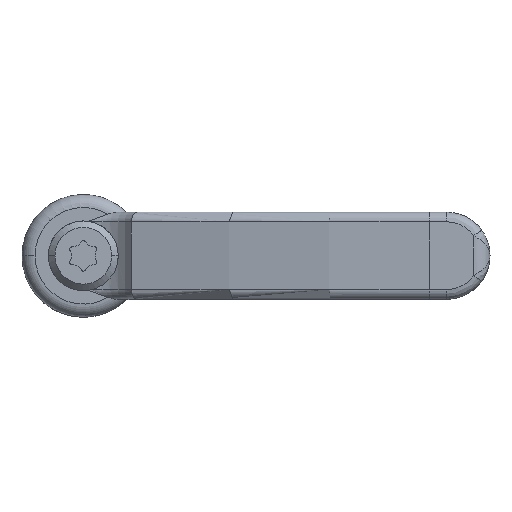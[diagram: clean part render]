
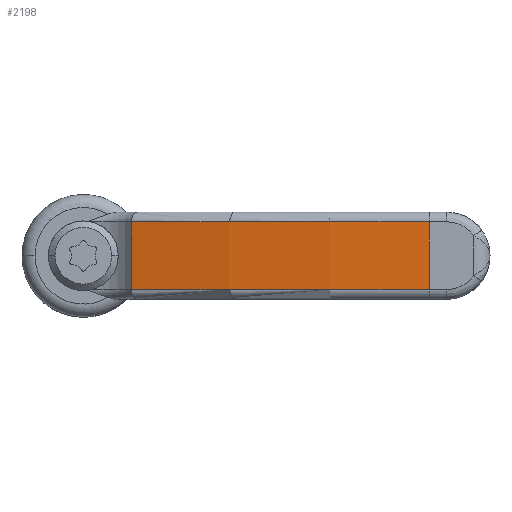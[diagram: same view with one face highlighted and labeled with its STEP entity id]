
A CAD part, top view. The second image highlights one B-rep face of the part: STEP entity #2198.
In plain terms, the highlighted cylindrical face has radius 166.65 mm (diameter 333.3 mm), a partial arc.
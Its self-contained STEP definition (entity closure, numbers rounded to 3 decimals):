
#104 = AXIS2_PLACEMENT_3D ( 'NONE', #2985, #1745, #682 ) ;
#131 = DIRECTION ( 'NONE',  ( 0., -1., 0. ) ) ;
#202 = AXIS2_PLACEMENT_3D ( 'NONE', #1467, #1785, #1497 ) ;
#227 = EDGE_LOOP ( 'NONE', ( #2148, #900, #2089, #3198 ) ) ;
#682 = DIRECTION ( 'NONE',  ( 1., 0., 0. ) ) ;
#900 = ORIENTED_EDGE ( 'NONE', *, *, #1917, .T. ) ;
#971 = LINE ( 'NONE', #3042, #1765 ) ;
#1015 = LINE ( 'NONE', #2353, #2774 ) ;
#1176 = VERTEX_POINT ( 'NONE', #1190 ) ;
#1190 = CARTESIAN_POINT ( 'NONE',  ( 7.461, -5.25, 31.648 ) ) ;
#1226 = CARTESIAN_POINT ( 'NONE',  ( 53.587, 5.25, 38.457 ) ) ;
#1260 = FACE_OUTER_BOUND ( 'NONE', #227, .T. ) ;
#1283 = CIRCLE ( 'NONE', #2573, 166.65 ) ;
#1405 = CARTESIAN_POINT ( 'NONE',  ( 54.621, 5.25, -128.19 ) ) ;
#1457 = DIRECTION ( 'NONE',  ( 1., 0., 0. ) ) ;
#1467 = CARTESIAN_POINT ( 'NONE',  ( 54.621, -6.75, -128.19 ) ) ;
#1480 = CYLINDRICAL_SURFACE ( 'NONE', #202, 166.65 ) ;
#1497 = DIRECTION ( 'NONE',  ( -1., 0., 0. ) ) ;
#1584 = CIRCLE ( 'NONE', #104, 166.65 ) ;
#1745 = DIRECTION ( 'NONE',  ( 0., 1., 0. ) ) ;
#1765 = VECTOR ( 'NONE', #2257, 1000. ) ;
#1785 = DIRECTION ( 'NONE',  ( 0., 1., 0. ) ) ;
#1917 = EDGE_CURVE ( 'NONE', #2235, #2652, #1283, .T. ) ;
#1996 = EDGE_CURVE ( 'NONE', #1176, #2880, #1584, .T. ) ;
#2054 = CARTESIAN_POINT ( 'NONE',  ( 7.461, 5.25, 31.648 ) ) ;
#2089 = ORIENTED_EDGE ( 'NONE', *, *, #3031, .F. ) ;
#2101 = DIRECTION ( 'NONE',  ( 0., 1., 0. ) ) ;
#2148 = ORIENTED_EDGE ( 'NONE', *, *, #2491, .T. ) ;
#2198 = ADVANCED_FACE ( 'NONE', ( #1260 ), #1480, .T. ) ;
#2235 = VERTEX_POINT ( 'NONE', #1226 ) ;
#2257 = DIRECTION ( 'NONE',  ( 0., 1., 0. ) ) ;
#2353 = CARTESIAN_POINT ( 'NONE',  ( 7.461, -6.75, 31.648 ) ) ;
#2491 = EDGE_CURVE ( 'NONE', #2880, #2235, #971, .T. ) ;
#2573 = AXIS2_PLACEMENT_3D ( 'NONE', #1405, #131, #1457 ) ;
#2652 = VERTEX_POINT ( 'NONE', #2054 ) ;
#2774 = VECTOR ( 'NONE', #2101, 1000. ) ;
#2880 = VERTEX_POINT ( 'NONE', #3038 ) ;
#2985 = CARTESIAN_POINT ( 'NONE',  ( 54.621, -5.25, -128.19 ) ) ;
#3031 = EDGE_CURVE ( 'NONE', #1176, #2652, #1015, .T. ) ;
#3038 = CARTESIAN_POINT ( 'NONE',  ( 53.587, -5.25, 38.457 ) ) ;
#3042 = CARTESIAN_POINT ( 'NONE',  ( 53.587, -6.75, 38.457 ) ) ;
#3198 = ORIENTED_EDGE ( 'NONE', *, *, #1996, .T. ) ;
